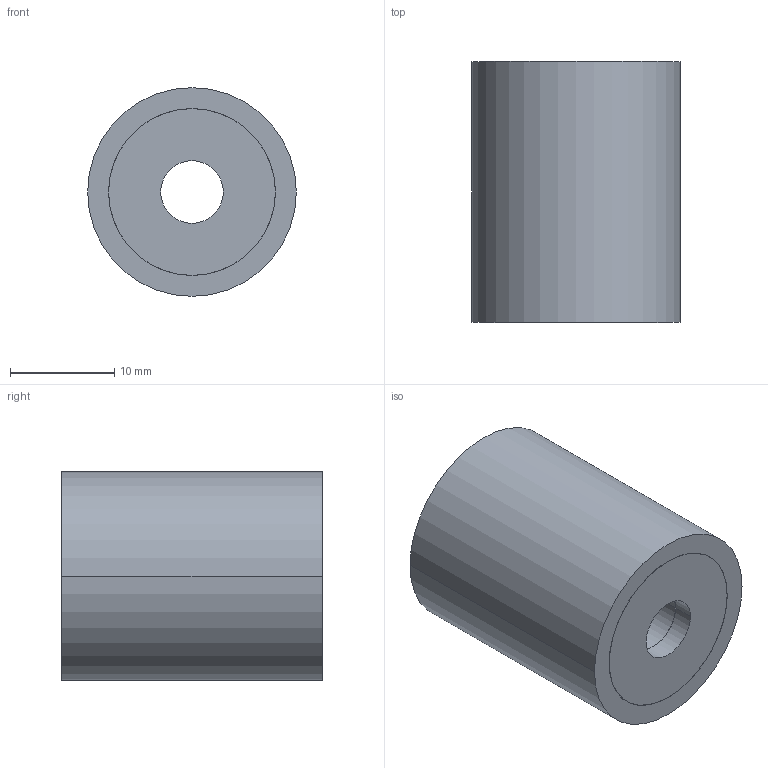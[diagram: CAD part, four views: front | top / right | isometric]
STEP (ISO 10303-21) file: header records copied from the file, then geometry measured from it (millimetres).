
FILE_DESCRIPTION (( 'STEP AP214' ), '1' );
FILE_NAME ('351-20-25-6-DD-40.step', '2025-07-23T10:14:01', ( '' ), ( '' ), 'SwSTEP 2.0', 'SolidWorks 2022', '' );
FILE_SCHEMA (( 'AUTOMOTIVE_DESIGN' ));
Length unit declared in the file: millimetre
Products named in the file (1): 351-20-25-6-DD-40
Bounding box: 20 x 25 x 20 mm (x, y, z)
Volume: 7147.1 mm3; surface area: 2616.6 mm2
Topology: 1 solids, 1 shells, 30 faces, 60 edges, 40 vertices
Faces by surface type: cylinder 20, plane 10
Entity records: 919 total; most frequent: DIRECTION 162, CARTESIAN_POINT 131, ORIENTED_EDGE 120, AXIS2_PLACEMENT_3D 71, EDGE_CURVE 60, VERTEX_POINT 40, CIRCLE 40, EDGE_LOOP 40
